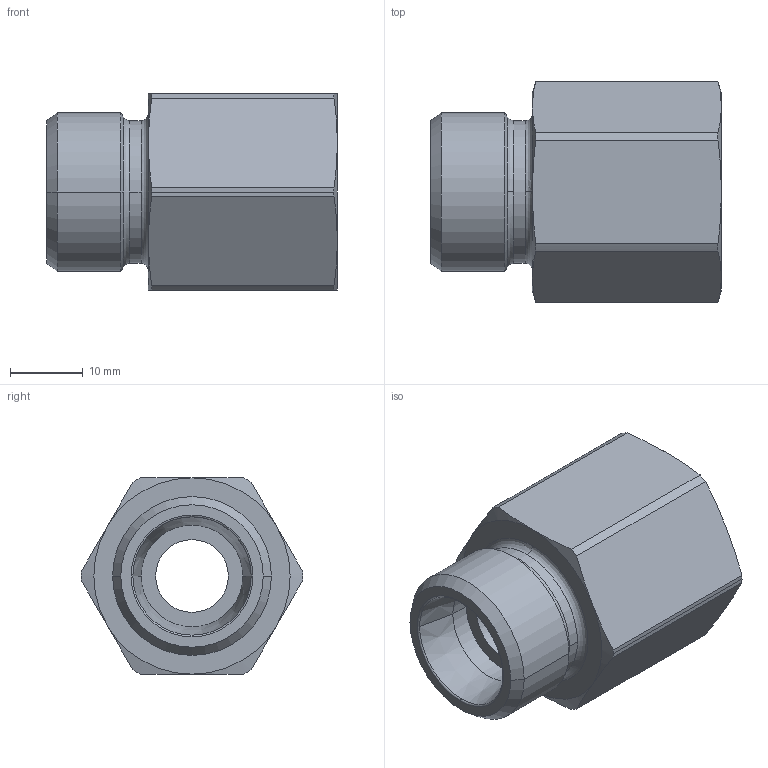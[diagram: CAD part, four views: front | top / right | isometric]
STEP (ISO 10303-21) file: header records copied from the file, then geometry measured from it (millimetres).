
FILE_DESCRIPTION((''),'2;1');
FILE_NAME('100818.stp','2007-10-30T15:19:14',(''),(''),'AutoCAD STEP 2000i','AutoCAD 2000i',', , ');
FILE_SCHEMA(('CONFIG_CONTROL_DESIGN'));
Length unit declared in the file: millimetre
Products named in the file (2): 100818.0; CHIAVE SMUSSATA#0
Assembly tree (1 placements, depth 2):
  100818.0
    CHIAVE SMUSSATA#0
Bounding box: 40 x 30.5 x 27 mm (x, y, z)
Volume: 13555.5 mm3; surface area: 6184.4 mm2
Topology: 1 solids, 1 shells, 56 faces, 134 edges, 82 vertices
Faces by surface type: cone 22, cylinder 18, plane 10, bspline 4, torus 2
Entity records: 1887 total; most frequent: CARTESIAN_POINT 498, DIRECTION 294, ORIENTED_EDGE 268, EDGE_CURVE 134, AXIS2_PLACEMENT_3D 130, VERTEX_POINT 82, CIRCLE 76, EDGE_LOOP 60
